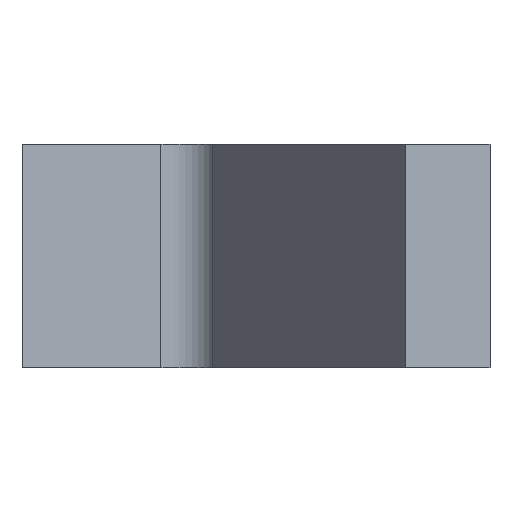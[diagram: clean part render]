
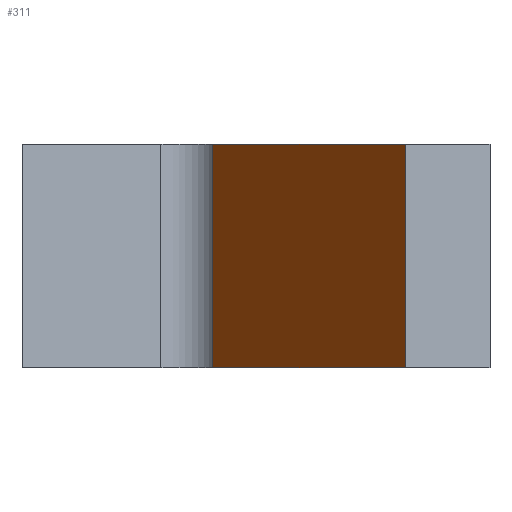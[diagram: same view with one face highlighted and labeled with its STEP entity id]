
A CAD part, front view. The second image highlights one B-rep face of the part: STEP entity #311.
In plain terms, the highlighted planar face has unit normal (-0.819, -0.574, 0).
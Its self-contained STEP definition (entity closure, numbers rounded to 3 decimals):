
#32 = PLANE('',#33);
#33 = AXIS2_PLACEMENT_3D('',#34,#35,#36);
#34 = CARTESIAN_POINT('',(8.86,33.86,0.));
#35 = DIRECTION('',(0.,0.,1.));
#36 = DIRECTION('',(1.,0.,-0.));
#111 = VERTEX_POINT('',#112);
#112 = CARTESIAN_POINT('',(10.227,24.659,0.));
#131 = CYLINDRICAL_SURFACE('',#132,2.);
#132 = AXIS2_PLACEMENT_3D('',#133,#134,#135);
#133 = CARTESIAN_POINT('',(8.589,23.512,61.));
#134 = DIRECTION('',(0.,0.,-1.));
#135 = DIRECTION('',(0.573,-0.819,0.));
#143 = EDGE_CURVE('',#111,#144,#146,.T.);
#144 = VERTEX_POINT('',#145);
#145 = CARTESIAN_POINT('',(20.549,9.913,0.));
#146 = SURFACE_CURVE('',#147,(#151,#157),.PCURVE_S1.);
#147 = LINE('',#148,#149);
#148 = CARTESIAN_POINT('',(13.575,19.875,0.));
#149 = VECTOR('',#150,1.);
#150 = DIRECTION('',(0.573,-0.819,0.));
#151 = PCURVE('',#32,#152);
#152 = DEFINITIONAL_REPRESENTATION('',(#153),#156);
#153 = B_SPLINE_CURVE_WITH_KNOTS('',1,(#154,#155),.UNSPECIFIED.,.F.,.F.,
  (2,2),(-5.839,14.161),.PIECEWISE_BEZIER_KNOTS.);
#154 = CARTESIAN_POINT('',(1.367,-9.201));
#155 = CARTESIAN_POINT('',(12.836,-25.586));
#156 = ( GEOMETRIC_REPRESENTATION_CONTEXT(2) 
PARAMETRIC_REPRESENTATION_CONTEXT() REPRESENTATION_CONTEXT('2D SPACE',''
  ) );
#157 = PCURVE('',#158,#163);
#158 = PLANE('',#159);
#159 = AXIS2_PLACEMENT_3D('',#160,#161,#162);
#160 = CARTESIAN_POINT('',(21.696,8.274,61.));
#161 = DIRECTION('',(-0.819,-0.573,0.));
#162 = DIRECTION('',(0.,0.,-1.));
#163 = DEFINITIONAL_REPRESENTATION('',(#164),#167);
#164 = B_SPLINE_CURVE_WITH_KNOTS('',1,(#165,#166),.UNSPECIFIED.,.F.,.F.,
  (2,2),(-5.839,14.161),.PIECEWISE_BEZIER_KNOTS.);
#165 = CARTESIAN_POINT('',(61.,-20.));
#166 = CARTESIAN_POINT('',(61.,0.));
#167 = ( GEOMETRIC_REPRESENTATION_CONTEXT(2) 
PARAMETRIC_REPRESENTATION_CONTEXT() REPRESENTATION_CONTEXT('2D SPACE',''
  ) );
#182 = PLANE('',#183);
#183 = AXIS2_PLACEMENT_3D('',#184,#185,#186);
#184 = CARTESIAN_POINT('',(2.101,-3.001,-0.));
#185 = DIRECTION('',(-0.573,0.819,0.));
#186 = DIRECTION('',(0.819,0.573,0.));
#234 = PLANE('',#235);
#235 = AXIS2_PLACEMENT_3D('',#236,#237,#238);
#236 = CARTESIAN_POINT('',(8.86,33.86,12.));
#237 = DIRECTION('',(0.,0.,1.));
#238 = DIRECTION('',(1.,0.,-0.));
#272 = EDGE_CURVE('',#144,#273,#275,.T.);
#273 = VERTEX_POINT('',#274);
#274 = CARTESIAN_POINT('',(20.549,9.913,12.));
#275 = SURFACE_CURVE('',#276,(#280,#286),.PCURVE_S1.);
#276 = LINE('',#277,#278);
#277 = CARTESIAN_POINT('',(20.549,9.913,30.5));
#278 = VECTOR('',#279,1.);
#279 = DIRECTION('',(0.,0.,1.));
#280 = PCURVE('',#182,#281);
#281 = DEFINITIONAL_REPRESENTATION('',(#282),#285);
#282 = B_SPLINE_CURVE_WITH_KNOTS('',1,(#283,#284),.UNSPECIFIED.,.F.,.F.,
  (2,2),(-30.5,-18.5),.PIECEWISE_BEZIER_KNOTS.);
#283 = CARTESIAN_POINT('',(22.519,0.));
#284 = CARTESIAN_POINT('',(22.519,-12.));
#285 = ( GEOMETRIC_REPRESENTATION_CONTEXT(2) 
PARAMETRIC_REPRESENTATION_CONTEXT() REPRESENTATION_CONTEXT('2D SPACE',''
  ) );
#286 = PCURVE('',#158,#287);
#287 = DEFINITIONAL_REPRESENTATION('',(#288),#291);
#288 = B_SPLINE_CURVE_WITH_KNOTS('',1,(#289,#290),.UNSPECIFIED.,.F.,.F.,
  (2,2),(-30.5,-18.5),.PIECEWISE_BEZIER_KNOTS.);
#289 = CARTESIAN_POINT('',(61.,-2.));
#290 = CARTESIAN_POINT('',(49.,-2.));
#291 = ( GEOMETRIC_REPRESENTATION_CONTEXT(2) 
PARAMETRIC_REPRESENTATION_CONTEXT() REPRESENTATION_CONTEXT('2D SPACE',''
  ) );
#311 = ADVANCED_FACE('',(#312),#158,.T.);
#312 = FACE_BOUND('',#313,.T.);
#313 = EDGE_LOOP('',(#314,#335,#356,#357));
#314 = ORIENTED_EDGE('',*,*,#315,.F.);
#315 = EDGE_CURVE('',#316,#273,#318,.T.);
#316 = VERTEX_POINT('',#317);
#317 = CARTESIAN_POINT('',(10.227,24.659,12.));
#318 = SURFACE_CURVE('',#319,(#323,#329),.PCURVE_S1.);
#319 = LINE('',#320,#321);
#320 = CARTESIAN_POINT('',(13.575,19.875,12.));
#321 = VECTOR('',#322,1.);
#322 = DIRECTION('',(0.573,-0.819,0.));
#323 = PCURVE('',#158,#324);
#324 = DEFINITIONAL_REPRESENTATION('',(#325),#328);
#325 = B_SPLINE_CURVE_WITH_KNOTS('',1,(#326,#327),.UNSPECIFIED.,.F.,.F.,
  (2,2),(-5.839,14.161),.PIECEWISE_BEZIER_KNOTS.);
#326 = CARTESIAN_POINT('',(49.,-20.));
#327 = CARTESIAN_POINT('',(49.,0.));
#328 = ( GEOMETRIC_REPRESENTATION_CONTEXT(2) 
PARAMETRIC_REPRESENTATION_CONTEXT() REPRESENTATION_CONTEXT('2D SPACE',''
  ) );
#329 = PCURVE('',#234,#330);
#330 = DEFINITIONAL_REPRESENTATION('',(#331),#334);
#331 = B_SPLINE_CURVE_WITH_KNOTS('',1,(#332,#333),.UNSPECIFIED.,.F.,.F.,
  (2,2),(-5.839,14.161),.PIECEWISE_BEZIER_KNOTS.);
#332 = CARTESIAN_POINT('',(1.367,-9.201));
#333 = CARTESIAN_POINT('',(12.836,-25.586));
#334 = ( GEOMETRIC_REPRESENTATION_CONTEXT(2) 
PARAMETRIC_REPRESENTATION_CONTEXT() REPRESENTATION_CONTEXT('2D SPACE',''
  ) );
#335 = ORIENTED_EDGE('',*,*,#336,.T.);
#336 = EDGE_CURVE('',#316,#111,#337,.T.);
#337 = SURFACE_CURVE('',#338,(#342,#349),.PCURVE_S1.);
#338 = LINE('',#339,#340);
#339 = CARTESIAN_POINT('',(10.227,24.659,61.));
#340 = VECTOR('',#341,1.);
#341 = DIRECTION('',(0.,0.,-1.));
#342 = PCURVE('',#158,#343);
#343 = DEFINITIONAL_REPRESENTATION('',(#344),#348);
#344 = LINE('',#345,#346);
#345 = CARTESIAN_POINT('',(0.,-20.));
#346 = VECTOR('',#347,1.);
#347 = DIRECTION('',(1.,0.));
#348 = ( GEOMETRIC_REPRESENTATION_CONTEXT(2) 
PARAMETRIC_REPRESENTATION_CONTEXT() REPRESENTATION_CONTEXT('2D SPACE',''
  ) );
#349 = PCURVE('',#131,#350);
#350 = DEFINITIONAL_REPRESENTATION('',(#351),#355);
#351 = LINE('',#352,#353);
#352 = CARTESIAN_POINT('',(-1.571,0.));
#353 = VECTOR('',#354,1.);
#354 = DIRECTION('',(-0.,1.));
#355 = ( GEOMETRIC_REPRESENTATION_CONTEXT(2) 
PARAMETRIC_REPRESENTATION_CONTEXT() REPRESENTATION_CONTEXT('2D SPACE',''
  ) );
#356 = ORIENTED_EDGE('',*,*,#143,.T.);
#357 = ORIENTED_EDGE('',*,*,#272,.T.);
